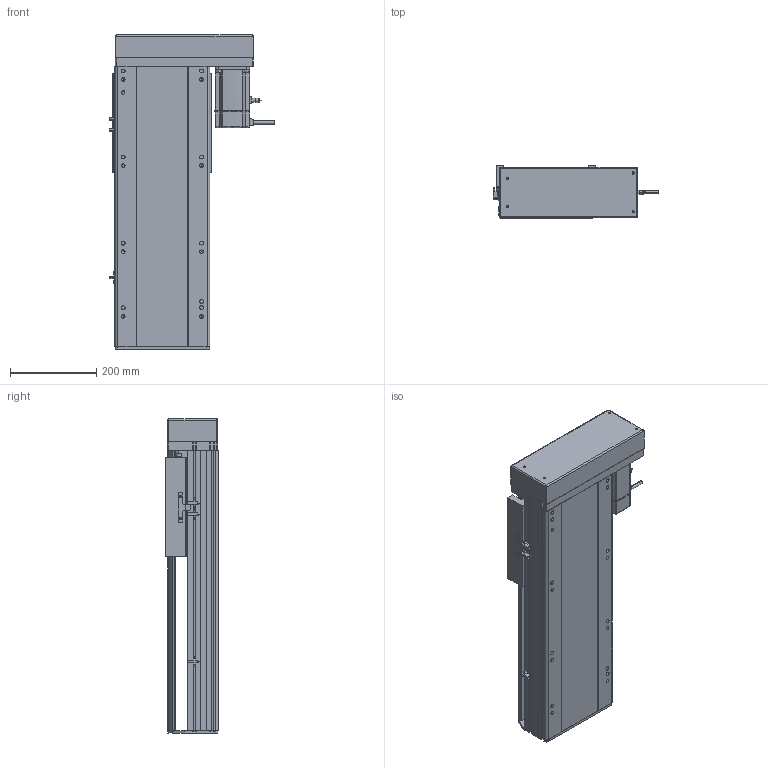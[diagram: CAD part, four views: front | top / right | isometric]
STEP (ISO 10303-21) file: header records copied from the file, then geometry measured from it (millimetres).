
FILE_DESCRIPTION (( 'STEP AP214' ), '1' );
FILE_NAME ('RTH22-XX-350-L-M75-C4.STEP', '2025-10-24T10:56:20', ( 'Microsoft' ), ( 'Microsoft' ), 'SwSTEP 2.0', 'SolidWorks 2018', '' );
FILE_SCHEMA (( 'AUTOMOTIVE_DESIGN' ));
Length unit declared in the file: millimetre
Products named in the file (10): N_RTH22-GY-001耜裔^RTH22-XX-XX-L-M75-C4; N_RTH22-L-004-SFS25賑釱^RTH22-XX-XX-L-M75-C4; N_OMRON EE-SX672 传感器^RTH22-XX-XX-L-M75-C4; N_RTH22-L-011菁釱^RTH22-XX-XX-L-M75-C4; N_RTH22-GY-013外置感应片^RTH22-XX-XX-L-M75-C4; N_RTH22-L-007奻裔^RTH22-XX-XX-L-M75-C4; N_RTH22-L-008-P75萇儂啣^RTH22-XX-XX-L-M75-C4; N_750W萇儂^RTH22-XX-XX-L-M75-C4; RTH22-XX-350-L-M75-C4; N_RTH22-L-018裔赽^RTH22-XX-XX-L-M75-C4
Assembly tree (11 placements, depth 2):
  RTH22-XX-350-L-M75-C4
    N_RTH22-L-011菁釱^RTH22-XX-XX-L-M75-C4
    N_RTH22-GY-001耜裔^RTH22-XX-XX-L-M75-C4
    N_750W萇儂^RTH22-XX-XX-L-M75-C4
    N_RTH22-L-008-P75萇儂啣^RTH22-XX-XX-L-M75-C4
    N_RTH22-L-007奻裔^RTH22-XX-XX-L-M75-C4
    N_RTH22-L-018裔赽^RTH22-XX-XX-L-M75-C4
    N_OMRON EE-SX672 传感器^RTH22-XX-XX-L-M75-C4  x3
    N_RTH22-GY-013外置感应片^RTH22-XX-XX-L-M75-C4
    N_RTH22-L-004-SFS25賑釱^RTH22-XX-XX-L-M75-C4
Bounding box: 384.7 x 122 x 729.7 mm (x, y, z)
Volume: 11308188 mm3; surface area: 1362104.1 mm2
Topology: 11 solids, 11 shells, 1552 faces, 4229 edges, 2731 vertices
Faces by surface type: plane 789, cylinder 434, bspline 279, cone 50
Entity records: 38361 total; most frequent: CARTESIAN_POINT 11818, ORIENTED_EDGE 5450, DIRECTION 5095, EDGE_CURVE 2725, VERTEX_POINT 1767, LINE 1711, VECTOR 1711, AXIS2_PLACEMENT_3D 1692
